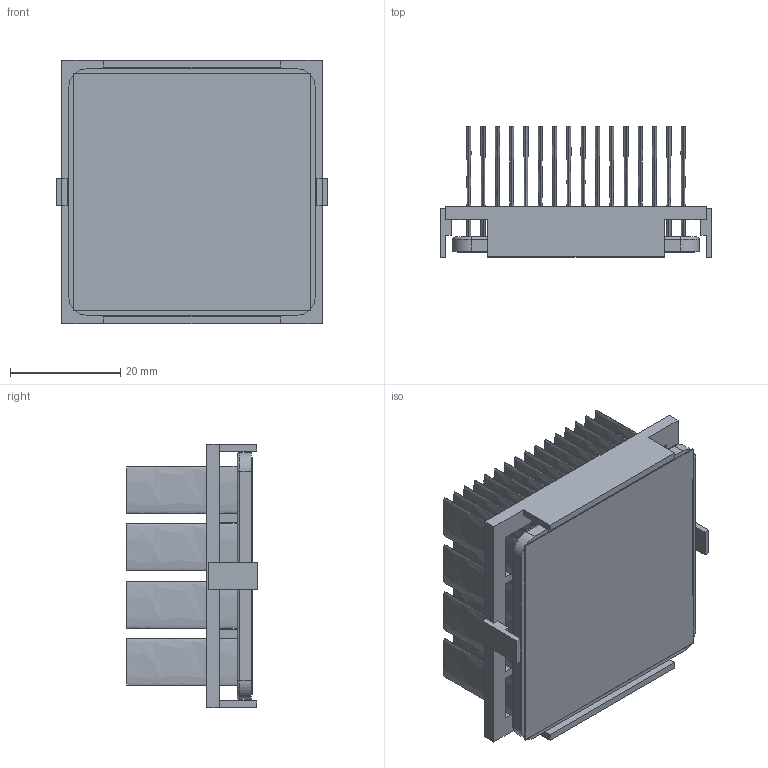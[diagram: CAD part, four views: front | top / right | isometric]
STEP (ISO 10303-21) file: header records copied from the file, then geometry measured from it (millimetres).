
FILE_DESCRIPTION (( 'STEP AP214' ), '1' );
FILE_NAME ('INM45001-23W-2.6O.STEP', '2023-02-28T00:47:11', ( '' ), ( '' ), 'SwSTEP 2.0', 'SolidWorks 2020', '' );
FILE_SCHEMA (( 'AUTOMOTIVE_DESIGN' ));
Length unit declared in the file: inch
Products named in the file (1): INM45001-23W-2.6O
Bounding box: 49.2 x 23.7 x 47.7 mm (x, y, z)
Volume: 14470.2 mm3; surface area: 33525.1 mm2
Topology: 3 solids, 3 shells, 274 faces, 604 edges, 400 vertices
Faces by surface type: plane 134, bspline 128, cylinder 8, torus 4
Entity records: 11396 total; most frequent: CARTESIAN_POINT 2943, ORIENTED_EDGE 1208, DIRECTION 662, EDGE_CURVE 604, VERTEX_POINT 400, EDGE_LOOP 340, VECTOR 328, LINE 328
